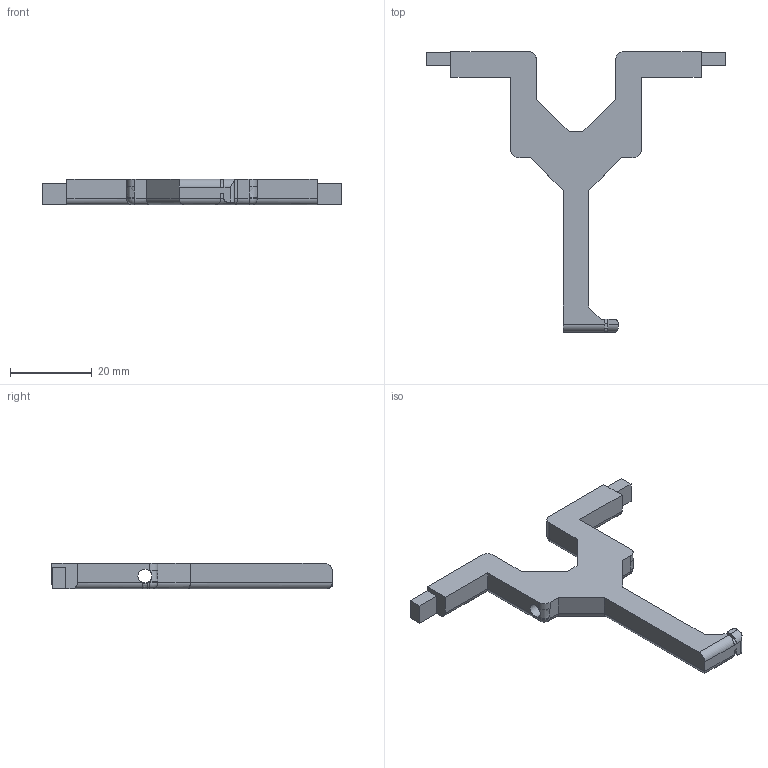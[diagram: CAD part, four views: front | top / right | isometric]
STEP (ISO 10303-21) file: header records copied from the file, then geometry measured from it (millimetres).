
FILE_DESCRIPTION(/* description */ ('Unknown'),/* implementation_level */ '2;1');
FILE_NAME(/* name */ 'Giraffe-follower-lower',/* time_stamp */ '2025-01-22T09:32:15-06:00',/* author */ ('V Hubbard'),/* organization */ ('Hubbard Hobbies'),/* preprocessor_version */ 'ST-DEVELOPER v19.4',/* originating_system */ 'Solid Edge',/* authorisation */ 'Unknown');
FILE_SCHEMA (('AUTOMOTIVE_DESIGN {1 0 10303 214 3 1 1}'));
Length unit declared in the file: millimetre
Products named in the file (1): Giraffe-follower-lower
Bounding box: 73.4 x 68.85 x 6.3 mm (x, y, z)
Volume: 6411.9 mm3; surface area: 4283 mm2
Topology: 1 solids, 1 shells, 90 faces, 239 edges, 151 vertices
Faces by surface type: plane 45, cylinder 38, bspline 4, torus 3
Full cylindrical faces by diameter (mm): 3.4 x1
Entity records: 2860 total; most frequent: CARTESIAN_POINT 580, ORIENTED_EDGE 474, DIRECTION 470, EDGE_CURVE 237, LINE 162, VECTOR 162, AXIS2_PLACEMENT_3D 154, VERTEX_POINT 150
